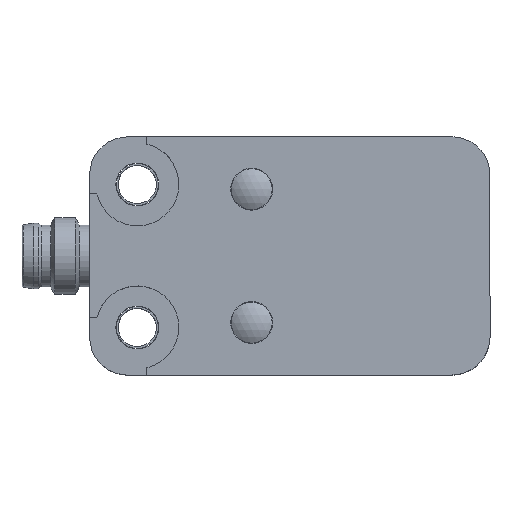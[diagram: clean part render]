
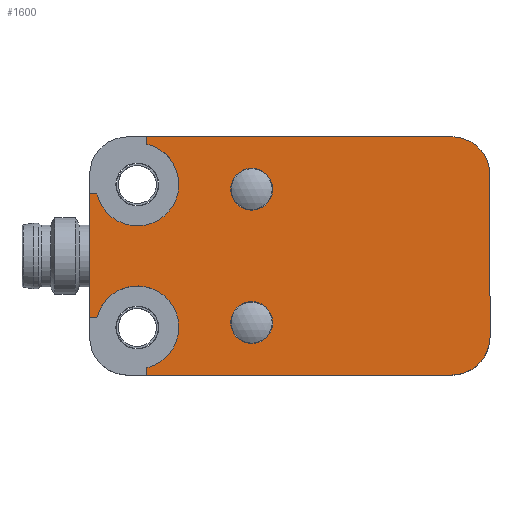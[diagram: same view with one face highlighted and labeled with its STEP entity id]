
A CAD part, top view. The second image highlights one B-rep face of the part: STEP entity #1600.
In plain terms, the highlighted planar face has unit normal (0, 0, 1).
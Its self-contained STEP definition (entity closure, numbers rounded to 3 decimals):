
#915=CARTESIAN_POINT('',(-27.184,14.029,10.8));
#916=VERTEX_POINT('',#915);
#965=CARTESIAN_POINT('',(-27.184,1.029,10.8));
#966=VERTEX_POINT('',#965);
#973=CARTESIAN_POINT('',(-27.184,1.029,10.8));
#974=DIRECTION('',(0.0,1.0,0.0));
#975=VECTOR('',#974,13.);
#976=LINE('',#973,#975);
#977=EDGE_CURVE('',#966,#916,#976,.T.);
#990=CARTESIAN_POINT('',(-7.984,14.529,10.8));
#991=VERTEX_POINT('',#990);
#992=CARTESIAN_POINT('',(-10.184,14.529,10.8));
#993=DIRECTION('',(0.0,0.0,-1.0));
#994=DIRECTION('',(-1.0,0.0,0.0));
#995=AXIS2_PLACEMENT_3D('',#992,#993,#994);
#996=CIRCLE('',#995,2.2);
#997=EDGE_CURVE('',#991,#991,#996,.T.);
#1030=CARTESIAN_POINT('',(-7.984,0.529,10.8));
#1031=VERTEX_POINT('',#1030);
#1032=CARTESIAN_POINT('',(-10.184,0.529,10.8));
#1033=DIRECTION('',(0.0,0.0,-1.0));
#1034=DIRECTION('',(-1.0,0.0,0.0));
#1035=AXIS2_PLACEMENT_3D('',#1032,#1033,#1034);
#1036=CIRCLE('',#1035,2.2);
#1037=EDGE_CURVE('',#1031,#1031,#1036,.T.);
#1179=CARTESIAN_POINT('',(-26.418,14.029,10.8));
#1180=VERTEX_POINT('',#1179);
#1181=CARTESIAN_POINT('',(-26.418,14.029,10.8));
#1182=DIRECTION('',(-1.0,0.0,0.0));
#1183=VECTOR('',#1182,0.767);
#1184=LINE('',#1181,#1183);
#1185=EDGE_CURVE('',#1180,#916,#1184,.T.);
#1202=CARTESIAN_POINT('',(-21.184,19.263,10.8));
#1203=VERTEX_POINT('',#1202);
#1204=CARTESIAN_POINT('',(-22.184,15.029,10.8));
#1205=DIRECTION('',(0.0,0.0,-1.0));
#1206=DIRECTION('',(0.973,0.23,0.0));
#1207=AXIS2_PLACEMENT_3D('',#1204,#1205,#1206);
#1208=CIRCLE('',#1207,4.35);
#1209=EDGE_CURVE('',#1203,#1180,#1208,.T.);
#1227=CARTESIAN_POINT('',(-21.184,20.029,10.8));
#1228=VERTEX_POINT('',#1227);
#1229=CARTESIAN_POINT('',(-21.184,20.029,10.8));
#1230=DIRECTION('',(0.0,-1.0,0.0));
#1231=VECTOR('',#1230,0.767);
#1232=LINE('',#1229,#1231);
#1233=EDGE_CURVE('',#1228,#1203,#1232,.T.);
#1260=CARTESIAN_POINT('',(-26.418,1.029,10.8));
#1261=VERTEX_POINT('',#1260);
#1268=CARTESIAN_POINT('',(-27.184,1.029,10.8));
#1269=DIRECTION('',(1.0,0.0,0.0));
#1270=VECTOR('',#1269,0.767);
#1271=LINE('',#1268,#1270);
#1272=EDGE_CURVE('',#966,#1261,#1271,.T.);
#1282=CARTESIAN_POINT('',(-21.184,-4.204,10.8));
#1283=VERTEX_POINT('',#1282);
#1284=CARTESIAN_POINT('',(-22.184,0.029,10.8));
#1285=DIRECTION('',(0.0,0.0,-1.0));
#1286=DIRECTION('',(-0.23,0.973,0.0));
#1287=AXIS2_PLACEMENT_3D('',#1284,#1285,#1286);
#1288=CIRCLE('',#1287,4.35);
#1289=EDGE_CURVE('',#1261,#1283,#1288,.T.);
#1315=CARTESIAN_POINT('',(-21.184,-4.971,10.8));
#1316=VERTEX_POINT('',#1315);
#1317=CARTESIAN_POINT('',(-21.184,-4.204,10.8));
#1318=DIRECTION('',(0.0,-1.0,0.0));
#1319=VECTOR('',#1318,0.767);
#1320=LINE('',#1317,#1319);
#1321=EDGE_CURVE('',#1283,#1316,#1320,.T.);
#1403=CARTESIAN_POINT('',(10.816,20.029,10.8));
#1404=VERTEX_POINT('',#1403);
#1405=CARTESIAN_POINT('',(-21.184,20.029,10.8));
#1406=DIRECTION('',(1.0,0.0,0.0));
#1407=VECTOR('',#1406,32.);
#1408=LINE('',#1405,#1407);
#1409=EDGE_CURVE('',#1228,#1404,#1408,.T.);
#1434=CARTESIAN_POINT('',(14.816,16.029,10.8));
#1435=VERTEX_POINT('',#1434);
#1436=CARTESIAN_POINT('',(10.816,16.029,10.8));
#1437=DIRECTION('',(0.0,0.0,-1.0));
#1438=DIRECTION('',(-1.0,0.0,0.0));
#1439=AXIS2_PLACEMENT_3D('',#1436,#1437,#1438);
#1440=CIRCLE('',#1439,4.0);
#1441=EDGE_CURVE('',#1404,#1435,#1440,.T.);
#1467=CARTESIAN_POINT('',(14.816,-0.971,10.8));
#1468=VERTEX_POINT('',#1467);
#1469=CARTESIAN_POINT('',(14.816,16.029,10.8));
#1470=DIRECTION('',(0.0,-1.0,0.0));
#1471=VECTOR('',#1470,17.0);
#1472=LINE('',#1469,#1471);
#1473=EDGE_CURVE('',#1435,#1468,#1472,.T.);
#1498=CARTESIAN_POINT('',(10.816,-4.971,10.8));
#1499=VERTEX_POINT('',#1498);
#1500=CARTESIAN_POINT('',(10.816,-0.971,10.8));
#1501=DIRECTION('',(0.0,0.0,-1.0));
#1502=DIRECTION('',(0.0,1.0,0.0));
#1503=AXIS2_PLACEMENT_3D('',#1500,#1501,#1502);
#1504=CIRCLE('',#1503,4.);
#1505=EDGE_CURVE('',#1468,#1499,#1504,.T.);
#1547=CARTESIAN_POINT('',(10.816,-4.971,10.8));
#1548=DIRECTION('',(-1.0,0.0,0.0));
#1549=VECTOR('',#1548,32.);
#1550=LINE('',#1547,#1549);
#1551=EDGE_CURVE('',#1499,#1316,#1550,.T.);
#1575=CARTESIAN_POINT('',(-6.184,7.529,10.8));
#1576=DIRECTION('',(0.0,0.0,1.0));
#1577=DIRECTION('',(1.0,0.0,0.0));
#1578=AXIS2_PLACEMENT_3D('',#1575,#1576,#1577);
#1579=PLANE('',#1578);
#1580=ORIENTED_EDGE('',*,*,#1185,.T.);
#1581=ORIENTED_EDGE('',*,*,#977,.F.);
#1582=ORIENTED_EDGE('',*,*,#1272,.T.);
#1583=ORIENTED_EDGE('',*,*,#1289,.T.);
#1584=ORIENTED_EDGE('',*,*,#1321,.T.);
#1585=ORIENTED_EDGE('',*,*,#1551,.F.);
#1586=ORIENTED_EDGE('',*,*,#1505,.F.);
#1587=ORIENTED_EDGE('',*,*,#1473,.F.);
#1588=ORIENTED_EDGE('',*,*,#1441,.F.);
#1589=ORIENTED_EDGE('',*,*,#1409,.F.);
#1590=ORIENTED_EDGE('',*,*,#1233,.T.);
#1591=ORIENTED_EDGE('',*,*,#1209,.T.);
#1592=EDGE_LOOP('',(#1580,#1581,#1582,#1583,#1584,#1585,#1586,#1587,#1588,#1589,#1590,#1591));
#1593=FACE_OUTER_BOUND('',#1592,.T.);
#1594=ORIENTED_EDGE('',*,*,#997,.T.);
#1595=EDGE_LOOP('',(#1594));
#1596=FACE_BOUND('',#1595,.T.);
#1597=ORIENTED_EDGE('',*,*,#1037,.T.);
#1598=EDGE_LOOP('',(#1597));
#1599=FACE_BOUND('',#1598,.T.);
#1600=ADVANCED_FACE('',(#1593,#1596,#1599),#1579,.T.);
